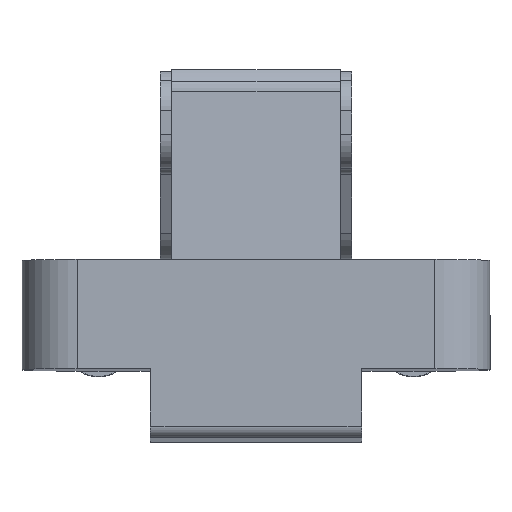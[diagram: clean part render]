
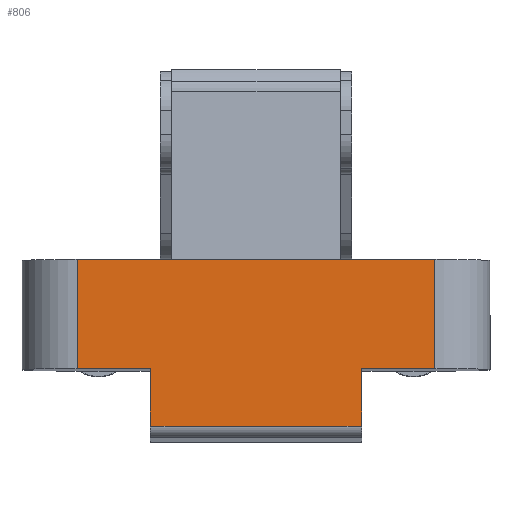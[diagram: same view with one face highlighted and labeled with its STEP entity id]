
A CAD part, top view. The second image highlights one B-rep face of the part: STEP entity #806.
In plain terms, the highlighted planar face has unit normal (0, 0.022, 1).
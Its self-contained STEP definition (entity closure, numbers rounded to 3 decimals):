
#18 = EDGE_CURVE ( 'NONE', #2041, #3730, #534, .T. ) ;
#20 = LINE ( 'NONE', #3453, #3081 ) ;
#39 = CARTESIAN_POINT ( 'NONE',  ( -5.65, -10.597, 39.286 ) ) ;
#122 = LINE ( 'NONE', #4340, #4402 ) ;
#247 = VERTEX_POINT ( 'NONE', #1927 ) ;
#295 = EDGE_CURVE ( 'NONE', #4066, #2041, #20, .T. ) ;
#406 = EDGE_CURVE ( 'NONE', #4066, #2138, #122, .T. ) ;
#450 = ORIENTED_EDGE ( 'NONE', *, *, #2543, .T. ) ;
#472 = CARTESIAN_POINT ( 'NONE',  ( 28.276, -10.597, 39.286 ) ) ;
#532 = VERTEX_POINT ( 'NONE', #1824 ) ;
#534 = LINE ( 'NONE', #2033, #2070 ) ;
#577 = LINE ( 'NONE', #2450, #2242 ) ;
#659 = VERTEX_POINT ( 'NONE', #4505 ) ;
#681 = DIRECTION ( 'NONE',  ( 0., 1., -0.022 ) ) ;
#802 = CARTESIAN_POINT ( 'NONE',  ( 8.5, -5.473, 39.175 ) ) ;
#806 = ADVANCED_FACE ( 'NONE', ( #2421 ), #2465, .T. ) ;
#1055 = LINE ( 'NONE', #4770, #3010 ) ;
#1095 = VECTOR ( 'NONE', #1936, 1000. ) ;
#1104 = LINE ( 'NONE', #3656, #4721 ) ;
#1114 = CARTESIAN_POINT ( 'NONE',  ( -5.65, -10.597, 39.286 ) ) ;
#1168 = CARTESIAN_POINT ( 'NONE',  ( 8.5, -5.473, 39.175 ) ) ;
#1199 = CARTESIAN_POINT ( 'NONE',  ( -10.3, -10.597, 39.286 ) ) ;
#1226 = DIRECTION ( 'NONE',  ( 0., 1., -0.022 ) ) ;
#1522 = CARTESIAN_POINT ( 'NONE',  ( -6.7, -10.597, 39.286 ) ) ;
#1538 = ORIENTED_EDGE ( 'NONE', *, *, #3608, .T. ) ;
#1563 = EDGE_CURVE ( 'NONE', #659, #2694, #577, .T. ) ;
#1566 = DIRECTION ( 'NONE',  ( 0., 1., -0.022 ) ) ;
#1619 = ORIENTED_EDGE ( 'NONE', *, *, #2486, .T. ) ;
#1687 = CARTESIAN_POINT ( 'NONE',  ( 2.783, -10.597, 39.286 ) ) ;
#1807 = ORIENTED_EDGE ( 'NONE', *, *, #3969, .F. ) ;
#1824 = CARTESIAN_POINT ( 'NONE',  ( 7., -10.597, 39.286 ) ) ;
#1828 = CARTESIAN_POINT ( 'NONE',  ( 15., 4.224, 38.964 ) ) ;
#1840 = CARTESIAN_POINT ( 'NONE',  ( -10.3, -5.473, 39.175 ) ) ;
#1927 = CARTESIAN_POINT ( 'NONE',  ( 15., -5.473, 39.175 ) ) ;
#1936 = DIRECTION ( 'NONE',  ( 0., -1., 0.022 ) ) ;
#1972 = DIRECTION ( 'NONE',  ( -1., 0., 0. ) ) ;
#2033 = CARTESIAN_POINT ( 'NONE',  ( -8.15, 4.224, 38.964 ) ) ;
#2041 = VERTEX_POINT ( 'NONE', #3891 ) ;
#2068 = CARTESIAN_POINT ( 'NONE',  ( -8.15, -48.202, 40.101 ) ) ;
#2070 = VECTOR ( 'NONE', #3957, 1000. ) ;
#2074 = CARTESIAN_POINT ( 'NONE',  ( -16.8, -5.473, 39.175 ) ) ;
#2081 = CARTESIAN_POINT ( 'NONE',  ( -1.433, -10.597, 39.286 ) ) ;
#2138 = VERTEX_POINT ( 'NONE', #1840 ) ;
#2242 = VECTOR ( 'NONE', #2857, 1000. ) ;
#2297 = VERTEX_POINT ( 'NONE', #802 ) ;
#2331 = VECTOR ( 'NONE', #1566, 1000. ) ;
#2339 = ORIENTED_EDGE ( 'NONE', *, *, #18, .F. ) ;
#2406 = ORIENTED_EDGE ( 'NONE', *, *, #295, .F. ) ;
#2421 = FACE_OUTER_BOUND ( 'NONE', #4538, .T. ) ;
#2450 = CARTESIAN_POINT ( 'NONE',  ( 28.276, -10.597, 39.286 ) ) ;
#2465 = PLANE ( 'NONE',  #2776 ) ;
#2472 = DIRECTION ( 'NONE',  ( 1., 0., 0. ) ) ;
#2482 = VERTEX_POINT ( 'NONE', #2889 ) ;
#2486 = EDGE_CURVE ( 'NONE', #247, #3730, #1104, .T. ) ;
#2543 = EDGE_CURVE ( 'NONE', #2297, #247, #1055, .T. ) ;
#2682 = CARTESIAN_POINT ( 'NONE',  ( -10.3, -5.473, 39.175 ) ) ;
#2694 = VERTEX_POINT ( 'NONE', #1199 ) ;
#2776 = AXIS2_PLACEMENT_3D ( 'NONE', #2068, #4308, #3890 ) ;
#2857 = DIRECTION ( 'NONE',  ( -1., 0., 0. ) ) ;
#2889 = CARTESIAN_POINT ( 'NONE',  ( 8.5, -10.597, 39.286 ) ) ;
#3010 = VECTOR ( 'NONE', #4064, 1000. ) ;
#3031 = VECTOR ( 'NONE', #1972, 1000. ) ;
#3081 = VECTOR ( 'NONE', #1226, 1000. ) ;
#3138 = ORIENTED_EDGE ( 'NONE', *, *, #1563, .F. ) ;
#3410 = LINE ( 'NONE', #2682, #2331 ) ;
#3453 = CARTESIAN_POINT ( 'NONE',  ( -16.8, -48.202, 40.101 ) ) ;
#3459 = ORIENTED_EDGE ( 'NONE', *, *, #4717, .T. ) ;
#3608 = EDGE_CURVE ( 'NONE', #4353, #532, #4489, .T. ) ;
#3639 = B_SPLINE_CURVE_WITH_KNOTS ( 'NONE', 3,
 ( #4807, #4099, #1522, #1114 ),
 .UNSPECIFIED., .F., .F.,
 ( 4, 4 ),
 ( 0., 1. ),
 .UNSPECIFIED. ) ;
#3656 = CARTESIAN_POINT ( 'NONE',  ( 15., -48.202, 40.101 ) ) ;
#3730 = VERTEX_POINT ( 'NONE', #1828 ) ;
#3890 = DIRECTION ( 'NONE',  ( 0., -1., 0.022 ) ) ;
#3891 = CARTESIAN_POINT ( 'NONE',  ( -16.8, 4.224, 38.964 ) ) ;
#3935 = EDGE_CURVE ( 'NONE', #2694, #2138, #3410, .T. ) ;
#3957 = DIRECTION ( 'NONE',  ( 1., 0., 0. ) ) ;
#3969 = EDGE_CURVE ( 'NONE', #2482, #532, #4552, .T. ) ;
#3977 = CARTESIAN_POINT ( 'NONE',  ( 7., -10.597, 39.286 ) ) ;
#4064 = DIRECTION ( 'NONE',  ( 1., 0., 0. ) ) ;
#4066 = VERTEX_POINT ( 'NONE', #2074 ) ;
#4070 = ORIENTED_EDGE ( 'NONE', *, *, #406, .T. ) ;
#4099 = CARTESIAN_POINT ( 'NONE',  ( -7.75, -10.597, 39.286 ) ) ;
#4270 = ORIENTED_EDGE ( 'NONE', *, *, #4792, .F. ) ;
#4308 = DIRECTION ( 'NONE',  ( 0., 0.022, 1. ) ) ;
#4340 = CARTESIAN_POINT ( 'NONE',  ( -8.15, -5.473, 39.175 ) ) ;
#4353 = VERTEX_POINT ( 'NONE', #39 ) ;
#4392 = ORIENTED_EDGE ( 'NONE', *, *, #3935, .F. ) ;
#4402 = VECTOR ( 'NONE', #2472, 1000. ) ;
#4489 = B_SPLINE_CURVE_WITH_KNOTS ( 'NONE', 3,
 ( #4661, #2081, #1687, #3977 ),
 .UNSPECIFIED., .F., .F.,
 ( 4, 4 ),
 ( 0., 1. ),
 .UNSPECIFIED. ) ;
#4505 = CARTESIAN_POINT ( 'NONE',  ( -8.8, -10.597, 39.286 ) ) ;
#4538 = EDGE_LOOP ( 'NONE', ( #4070, #4392, #3138, #3459, #1538, #1807, #4270, #450, #1619, #2339, #2406 ) ) ;
#4552 = LINE ( 'NONE', #472, #3031 ) ;
#4661 = CARTESIAN_POINT ( 'NONE',  ( -5.65, -10.597, 39.286 ) ) ;
#4717 = EDGE_CURVE ( 'NONE', #659, #4353, #3639, .T. ) ;
#4721 = VECTOR ( 'NONE', #681, 1000. ) ;
#4770 = CARTESIAN_POINT ( 'NONE',  ( -8.15, -5.473, 39.175 ) ) ;
#4792 = EDGE_CURVE ( 'NONE', #2297, #2482, #4826, .T. ) ;
#4807 = CARTESIAN_POINT ( 'NONE',  ( -8.8, -10.597, 39.286 ) ) ;
#4826 = LINE ( 'NONE', #1168, #1095 ) ;
